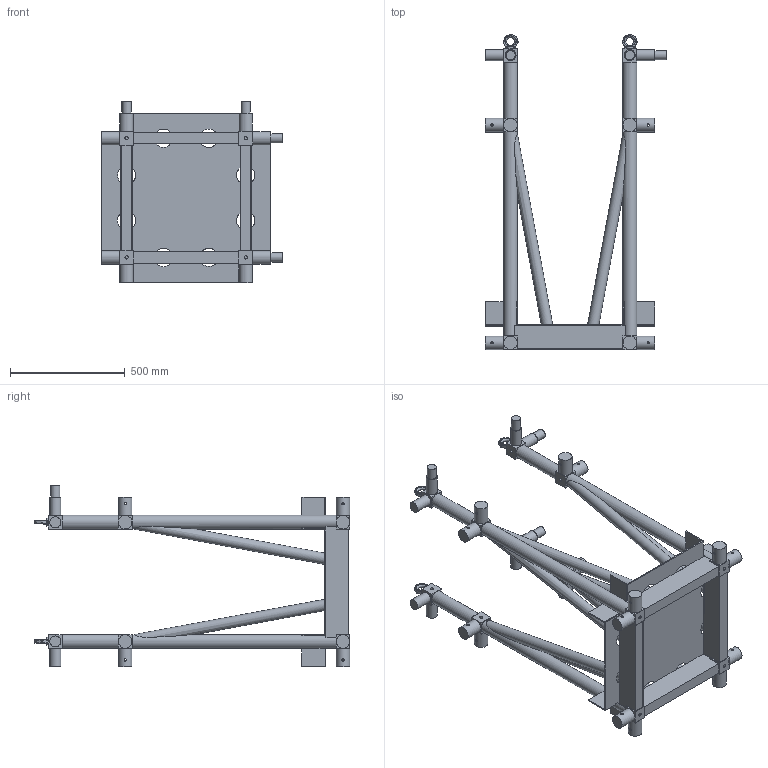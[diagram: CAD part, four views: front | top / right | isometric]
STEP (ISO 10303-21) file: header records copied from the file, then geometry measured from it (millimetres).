
FILE_DESCRIPTION(/* description */ (''),/* implementation_level */ '2;1');
FILE_NAME(/* name */ 'M:\Symbolen_NIEUW\STP\Corners\B100CW\B100CW-C016_111100004.stp',/* time_stamp */ '2017-12-06T15:11:40+01:00',/* author */ ('Kees'),/* organization */ (''),/* preprocessor_version */ 'ST-DEVELOPER v16.13',/* originating_system */ 'Autodesk Inventor 2018',/* authorisation */ '');
FILE_SCHEMA (('AUTOMOTIVE_DESIGN { 1 0 10303 214 3 1 1 }'));
Products named in the file (1): 260100464
Bounding box: 791 x 1377.17 x 791 mm (x, y, z)
Volume: 39062672.7 mm3; surface area: 4058131 mm2
Topology: 1 solids, 1 shells, 2770 faces, 7672 edges, 4958 vertices
Faces by surface type: plane 2176, cylinder 322, bspline 168, torus 76, sphere 16, cone 12
Full cylindrical faces by diameter (mm): 10 x16, 13.835 x68, 35 x4, 40 x4, 48 x8, 48.3 x8, 58.8 x16, 60 x8, 80 x8
Entity records: 110259 total; most frequent: CARTESIAN_POINT 38365, ORIENTED_EDGE 14828, DIRECTION 13316, EDGE_CURVE 7414, LINE 5954, VECTOR 5954, VERTEX_POINT 4864, AXIS2_PLACEMENT_3D 3681
